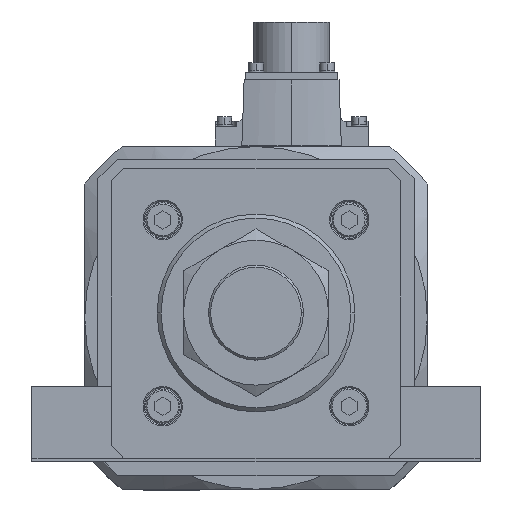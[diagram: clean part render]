
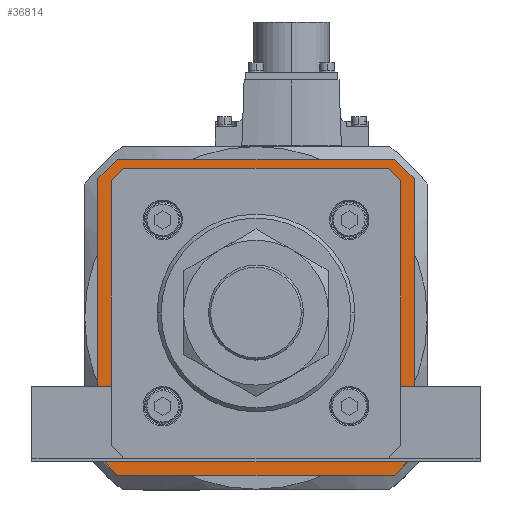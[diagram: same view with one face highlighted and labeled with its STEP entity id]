
A CAD part, top view. The second image highlights one B-rep face of the part: STEP entity #36814.
In plain terms, the highlighted planar face has unit normal (0, 0, 1).
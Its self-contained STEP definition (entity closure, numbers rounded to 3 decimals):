
#54 = DIRECTION ( 'NONE',  ( 1., 0., 0. ) ) ;
#178 = CARTESIAN_POINT ( 'NONE',  ( 52.5, -60., -119. ) ) ;
#247 = LINE ( 'NONE', #10097, #6176 ) ;
#619 = CARTESIAN_POINT ( 'NONE',  ( 60., 52.5, -119. ) ) ;
#909 = VERTEX_POINT ( 'NONE', #11014 ) ;
#2422 = DIRECTION ( 'NONE',  ( -0.707, -0.707, 0. ) ) ;
#2460 = EDGE_CURVE ( 'NONE', #27215, #29139, #23687, .T. ) ;
#2481 = ORIENTED_EDGE ( 'NONE', *, *, #14670, .T. ) ;
#2950 = VERTEX_POINT ( 'NONE', #4303 ) ;
#3546 = CARTESIAN_POINT ( 'NONE',  ( 52.5, 60., -119. ) ) ;
#3876 = CARTESIAN_POINT ( 'NONE',  ( -60., -52.5, -119. ) ) ;
#4253 = EDGE_CURVE ( 'NONE', #29139, #13532, #4835, .T. ) ;
#4303 = CARTESIAN_POINT ( 'NONE',  ( 53.5, -49.593, -119. ) ) ;
#4515 = EDGE_LOOP ( 'NONE', ( #20444, #2481, #4827, #33370, #15111, #4627, #28889, #10689 ) ) ;
#4627 = ORIENTED_EDGE ( 'NONE', *, *, #9380, .T. ) ;
#4712 = VECTOR ( 'NONE', #2422, 1000. ) ;
#4819 = CARTESIAN_POINT ( 'NONE',  ( 53.646, 49.446, -119. ) ) ;
#4827 = ORIENTED_EDGE ( 'NONE', *, *, #15338, .T. ) ;
#4835 = LINE ( 'NONE', #619, #21285 ) ;
#4965 = EDGE_CURVE ( 'NONE', #5097, #28862, #247, .T. ) ;
#5097 = VERTEX_POINT ( 'NONE', #16336 ) ;
#5303 = DIRECTION ( 'NONE',  ( 0., 1., 0. ) ) ;
#5366 = LINE ( 'NONE', #35780, #35451 ) ;
#5667 = EDGE_CURVE ( 'NONE', #11907, #27831, #22092, .T. ) ;
#5811 = CARTESIAN_POINT ( 'NONE',  ( 53.5, -49.8, -119. ) ) ;
#5890 = DIRECTION ( 'NONE',  ( 0.707, 0.707, 0. ) ) ;
#6176 = VECTOR ( 'NONE', #7426, 1000. ) ;
#6503 = ORIENTED_EDGE ( 'NONE', *, *, #4253, .F. ) ;
#6697 = EDGE_CURVE ( 'NONE', #18465, #27644, #25195, .T. ) ;
#7426 = DIRECTION ( 'NONE',  ( -0.707, 0.707, 0. ) ) ;
#7787 = VERTEX_POINT ( 'NONE', #14849 ) ;
#8654 = DIRECTION ( 'NONE',  ( -0.707, -0.707, 0. ) ) ;
#9005 = DIRECTION ( 'NONE',  ( 0., 1., 0. ) ) ;
#9312 = VECTOR ( 'NONE', #8654, 1000. ) ;
#9380 = EDGE_CURVE ( 'NONE', #7787, #18465, #12963, .T. ) ;
#9464 = CARTESIAN_POINT ( 'NONE',  ( -52.5, 60., -119. ) ) ;
#10097 = CARTESIAN_POINT ( 'NONE',  ( -52.5, -60., -119. ) ) ;
#10689 = ORIENTED_EDGE ( 'NONE', *, *, #12546, .T. ) ;
#10698 = VECTOR ( 'NONE', #24033, 1000. ) ;
#11014 = CARTESIAN_POINT ( 'NONE',  ( -60., 52.5, -119. ) ) ;
#11083 = CARTESIAN_POINT ( 'NONE',  ( -53.5, 49.8, -119. ) ) ;
#11291 = VECTOR ( 'NONE', #33888, 1000. ) ;
#11429 = CARTESIAN_POINT ( 'NONE',  ( -49.593, 53.5, -119. ) ) ;
#11686 = LINE ( 'NONE', #4819, #22616 ) ;
#11759 = VERTEX_POINT ( 'NONE', #28357 ) ;
#11907 = VERTEX_POINT ( 'NONE', #11429 ) ;
#11976 = VECTOR ( 'NONE', #5303, 1000. ) ;
#12453 = ORIENTED_EDGE ( 'NONE', *, *, #22421, .F. ) ;
#12546 = EDGE_CURVE ( 'NONE', #27644, #11907, #21871, .T. ) ;
#12667 = CARTESIAN_POINT ( 'NONE',  ( 49.593, 53.5, -119. ) ) ;
#12702 = EDGE_CURVE ( 'NONE', #909, #27215, #21394, .T. ) ;
#12963 = LINE ( 'NONE', #19369, #30275 ) ;
#12978 = LINE ( 'NONE', #37525, #9312 ) ;
#13060 = VERTEX_POINT ( 'NONE', #20365 ) ;
#13122 = ORIENTED_EDGE ( 'NONE', *, *, #13898, .F. ) ;
#13532 = VERTEX_POINT ( 'NONE', #37378 ) ;
#13827 = CARTESIAN_POINT ( 'NONE',  ( -53.5, -49.593, -119. ) ) ;
#13898 = EDGE_CURVE ( 'NONE', #36857, #5097, #19926, .T. ) ;
#14670 = EDGE_CURVE ( 'NONE', #27831, #32046, #11686, .T. ) ;
#14724 = CARTESIAN_POINT ( 'NONE',  ( 0., 0., -119. ) ) ;
#14819 = EDGE_LOOP ( 'NONE', ( #20884, #32596, #12453, #31746, #13122, #26840, #16723, #6503 ) ) ;
#14849 = CARTESIAN_POINT ( 'NONE',  ( -49.593, -53.5, -119. ) ) ;
#15098 = VECTOR ( 'NONE', #9005, 1000. ) ;
#15111 = ORIENTED_EDGE ( 'NONE', *, *, #32667, .T. ) ;
#15338 = EDGE_CURVE ( 'NONE', #32046, #2950, #25133, .T. ) ;
#16222 = LINE ( 'NONE', #27723, #23510 ) ;
#16336 = CARTESIAN_POINT ( 'NONE',  ( -52.5, -60., -119. ) ) ;
#16535 = DIRECTION ( 'NONE',  ( 0., -1., 0. ) ) ;
#16723 = ORIENTED_EDGE ( 'NONE', *, *, #19507, .F. ) ;
#17077 = LINE ( 'NONE', #28666, #4712 ) ;
#17281 = DIRECTION ( 'NONE',  ( 0., 0., 1. ) ) ;
#18465 = VERTEX_POINT ( 'NONE', #13827 ) ;
#18640 = CARTESIAN_POINT ( 'NONE',  ( 52.5, -60., -119. ) ) ;
#18665 = VECTOR ( 'NONE', #36319, 1000. ) ;
#19241 = DIRECTION ( 'NONE',  ( 0.707, -0.707, 0. ) ) ;
#19369 = CARTESIAN_POINT ( 'NONE',  ( -53.646, -49.446, -119. ) ) ;
#19507 = EDGE_CURVE ( 'NONE', #13532, #11759, #16222, .T. ) ;
#19718 = FACE_BOUND ( 'NONE', #4515, .T. ) ;
#19926 = LINE ( 'NONE', #18640, #11291 ) ;
#20365 = CARTESIAN_POINT ( 'NONE',  ( 49.593, -53.5, -119. ) ) ;
#20444 = ORIENTED_EDGE ( 'NONE', *, *, #5667, .T. ) ;
#20884 = ORIENTED_EDGE ( 'NONE', *, *, #2460, .F. ) ;
#20933 = CARTESIAN_POINT ( 'NONE',  ( -53.5, 49.593, -119. ) ) ;
#21023 = LINE ( 'NONE', #29108, #15098 ) ;
#21285 = VECTOR ( 'NONE', #36029, 1000. ) ;
#21394 = LINE ( 'NONE', #9464, #35966 ) ;
#21601 = CARTESIAN_POINT ( 'NONE',  ( -52.5, 60., -119. ) ) ;
#21771 = DIRECTION ( 'NONE',  ( -1., 0., 0. ) ) ;
#21871 = LINE ( 'NONE', #28956, #22308 ) ;
#22092 = LINE ( 'NONE', #33186, #10698 ) ;
#22308 = VECTOR ( 'NONE', #5890, 1000. ) ;
#22421 = EDGE_CURVE ( 'NONE', #28862, #909, #21023, .T. ) ;
#22616 = VECTOR ( 'NONE', #19241, 1000. ) ;
#23510 = VECTOR ( 'NONE', #16535, 1000. ) ;
#23687 = LINE ( 'NONE', #3546, #18665 ) ;
#23723 = DIRECTION ( 'NONE',  ( 0.707, 0.707, 0. ) ) ;
#24033 = DIRECTION ( 'NONE',  ( 1., 0., 0. ) ) ;
#25133 = LINE ( 'NONE', #5811, #26960 ) ;
#25195 = LINE ( 'NONE', #11083, #11976 ) ;
#26840 = ORIENTED_EDGE ( 'NONE', *, *, #34652, .F. ) ;
#26960 = VECTOR ( 'NONE', #37751, 1000. ) ;
#27215 = VERTEX_POINT ( 'NONE', #21601 ) ;
#27644 = VERTEX_POINT ( 'NONE', #20933 ) ;
#27723 = CARTESIAN_POINT ( 'NONE',  ( 60., 52.5, -119. ) ) ;
#27831 = VERTEX_POINT ( 'NONE', #12667 ) ;
#28357 = CARTESIAN_POINT ( 'NONE',  ( 60., -52.5, -119. ) ) ;
#28379 = FACE_OUTER_BOUND ( 'NONE', #14819, .T. ) ;
#28666 = CARTESIAN_POINT ( 'NONE',  ( 49.446, -53.646, -119. ) ) ;
#28862 = VERTEX_POINT ( 'NONE', #3876 ) ;
#28889 = ORIENTED_EDGE ( 'NONE', *, *, #6697, .T. ) ;
#28956 = CARTESIAN_POINT ( 'NONE',  ( -49.446, 53.646, -119. ) ) ;
#29108 = CARTESIAN_POINT ( 'NONE',  ( -60., 52.5, -119. ) ) ;
#29139 = VERTEX_POINT ( 'NONE', #37745 ) ;
#29930 = EDGE_CURVE ( 'NONE', #2950, #13060, #17077, .T. ) ;
#30275 = VECTOR ( 'NONE', #33975, 1000. ) ;
#31433 = CARTESIAN_POINT ( 'NONE',  ( 53.5, 49.593, -119. ) ) ;
#31746 = ORIENTED_EDGE ( 'NONE', *, *, #4965, .F. ) ;
#32046 = VERTEX_POINT ( 'NONE', #31433 ) ;
#32596 = ORIENTED_EDGE ( 'NONE', *, *, #12702, .F. ) ;
#32667 = EDGE_CURVE ( 'NONE', #13060, #7787, #5366, .T. ) ;
#33186 = CARTESIAN_POINT ( 'NONE',  ( 49.8, 53.5, -119. ) ) ;
#33370 = ORIENTED_EDGE ( 'NONE', *, *, #29930, .T. ) ;
#33888 = DIRECTION ( 'NONE',  ( -1., 0., 0. ) ) ;
#33975 = DIRECTION ( 'NONE',  ( -0.707, 0.707, 0. ) ) ;
#34652 = EDGE_CURVE ( 'NONE', #11759, #36857, #12978, .T. ) ;
#34692 = PLANE ( 'NONE',  #35831 ) ;
#35451 = VECTOR ( 'NONE', #21771, 1000. ) ;
#35780 = CARTESIAN_POINT ( 'NONE',  ( -49.8, -53.5, -119. ) ) ;
#35831 = AXIS2_PLACEMENT_3D ( 'NONE', #14724, #17281, #54 ) ;
#35966 = VECTOR ( 'NONE', #23723, 1000. ) ;
#36029 = DIRECTION ( 'NONE',  ( 0.707, -0.707, 0. ) ) ;
#36319 = DIRECTION ( 'NONE',  ( 1., 0., 0. ) ) ;
#36814 = ADVANCED_FACE ( 'NONE', ( #19718, #28379 ), #34692, .T. ) ;
#36857 = VERTEX_POINT ( 'NONE', #178 ) ;
#37378 = CARTESIAN_POINT ( 'NONE',  ( 60., 52.5, -119. ) ) ;
#37525 = CARTESIAN_POINT ( 'NONE',  ( 60., -52.5, -119. ) ) ;
#37745 = CARTESIAN_POINT ( 'NONE',  ( 52.5, 60., -119. ) ) ;
#37751 = DIRECTION ( 'NONE',  ( 0., -1., 0. ) ) ;
